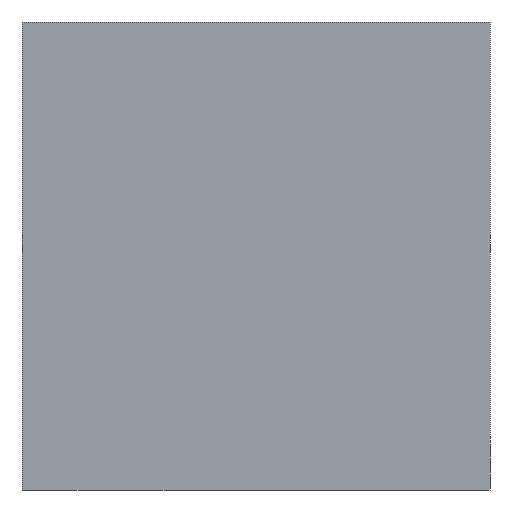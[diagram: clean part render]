
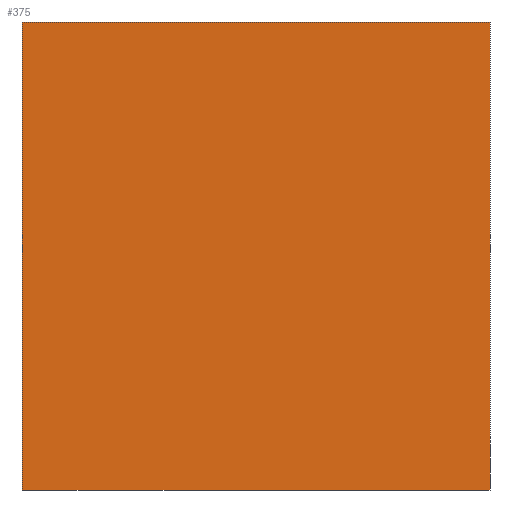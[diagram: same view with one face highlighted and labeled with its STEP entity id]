
A CAD part, left-side view. The second image highlights one B-rep face of the part: STEP entity #375.
In plain terms, the highlighted planar face has unit normal (-1, 0, 0).
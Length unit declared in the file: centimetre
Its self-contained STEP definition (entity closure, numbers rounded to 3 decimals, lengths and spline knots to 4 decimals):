
#10 = VERTEX_POINT ( 'NONE', #116 ) ;
#46 = LINE ( 'NONE', #440, #219 ) ;
#56 = CARTESIAN_POINT ( 'NONE',  ( 0., 1000., 1000. ) ) ;
#99 = PLANE ( 'NONE',  #386 ) ;
#103 = VERTEX_POINT ( 'NONE', #548 ) ;
#104 = DIRECTION ( 'NONE',  ( 1., 0., 0. ) ) ;
#105 = ORIENTED_EDGE ( 'NONE', *, *, #433, .T. ) ;
#116 = CARTESIAN_POINT ( 'NONE',  ( 0., 0., 0. ) ) ;
#138 = DIRECTION ( 'NONE',  ( 0., 0., -1. ) ) ;
#150 = CARTESIAN_POINT ( 'NONE',  ( 0., 1000., 1000. ) ) ;
#173 = VECTOR ( 'NONE', #276, 100. ) ;
#179 = CARTESIAN_POINT ( 'NONE',  ( 0., 1000., 1000. ) ) ;
#219 = VECTOR ( 'NONE', #138, 100. ) ;
#222 = EDGE_LOOP ( 'NONE', ( #105, #344, #379, #476 ) ) ;
#227 = LINE ( 'NONE', #480, #173 ) ;
#252 = VECTOR ( 'NONE', #347, 100. ) ;
#268 = DIRECTION ( 'NONE',  ( 0., 0., -1. ) ) ;
#276 = DIRECTION ( 'NONE',  ( 0., -1., 0. ) ) ;
#295 = EDGE_CURVE ( 'NONE', #489, #10, #46, .T. ) ;
#309 = CARTESIAN_POINT ( 'NONE',  ( 0., 0., 1000. ) ) ;
#316 = LINE ( 'NONE', #150, #252 ) ;
#324 = CARTESIAN_POINT ( 'NONE',  ( 0., 1000., 0. ) ) ;
#344 = ORIENTED_EDGE ( 'NONE', *, *, #295, .F. ) ;
#347 = DIRECTION ( 'NONE',  ( 0., 0., -1. ) ) ;
#356 = DIRECTION ( 'NONE',  ( 0., -1., 0. ) ) ;
#375 = ADVANCED_FACE ( 'NONE', ( #482 ), #99, .F. ) ;
#379 = ORIENTED_EDGE ( 'NONE', *, *, #488, .F. ) ;
#386 = AXIS2_PLACEMENT_3D ( 'NONE', #56, #104, #268 ) ;
#390 = LINE ( 'NONE', #179, #537 ) ;
#433 = EDGE_CURVE ( 'NONE', #522, #10, #227, .T. ) ;
#440 = CARTESIAN_POINT ( 'NONE',  ( 0., 0., 1000. ) ) ;
#476 = ORIENTED_EDGE ( 'NONE', *, *, #501, .T. ) ;
#480 = CARTESIAN_POINT ( 'NONE',  ( 0., 1000., 0. ) ) ;
#482 = FACE_OUTER_BOUND ( 'NONE', #222, .T. ) ;
#488 = EDGE_CURVE ( 'NONE', #103, #489, #390, .T. ) ;
#489 = VERTEX_POINT ( 'NONE', #309 ) ;
#501 = EDGE_CURVE ( 'NONE', #103, #522, #316, .T. ) ;
#522 = VERTEX_POINT ( 'NONE', #324 ) ;
#537 = VECTOR ( 'NONE', #356, 100. ) ;
#548 = CARTESIAN_POINT ( 'NONE',  ( 0., 1000., 1000. ) ) ;
